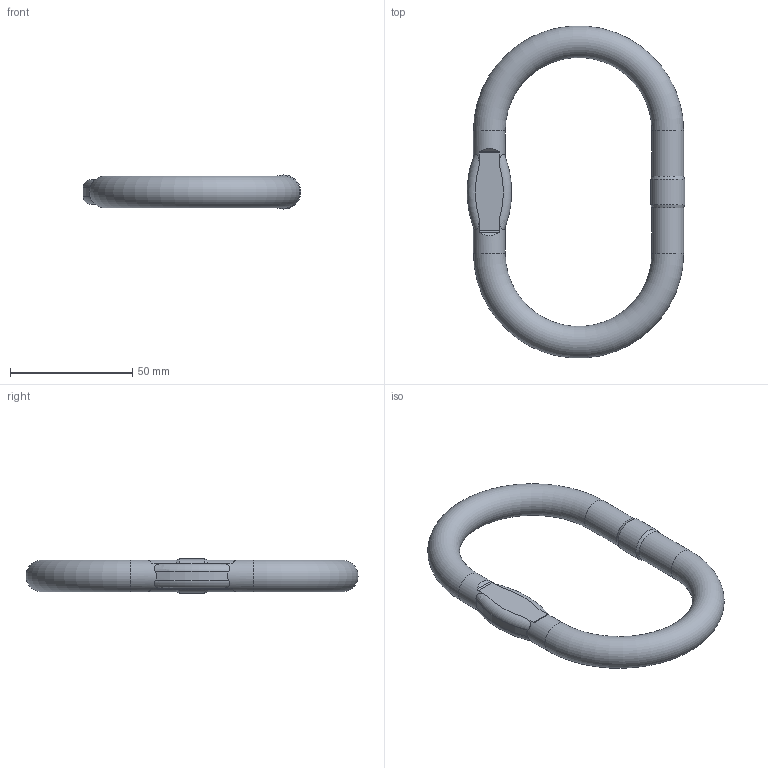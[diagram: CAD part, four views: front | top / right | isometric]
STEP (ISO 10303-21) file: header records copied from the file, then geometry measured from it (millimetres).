
FILE_DESCRIPTION(/* description */ (''),/* implementation_level */ '2;1');
FILE_NAME(/* name */ 'AWP_13.stp',/* time_stamp */ '2018-02-23T10:26:51+01:00',/* author */ (''),/* organization */ (''),/* preprocessor_version */ 'ST-DEVELOPER v16',/* originating_system */ 'SIEMENS PLM Software NX 11.0',/* authorisation */ '');
FILE_SCHEMA (('AUTOMOTIVE_DESIGN { 1 0 10303 214 3 1 1 1 }'));
Length unit declared in the file: millimetre
Products named in the file (1): kch1114C08Dlj84
Bounding box: 89.05 x 135.86 x 13.97 mm (x, y, z)
Volume: 44535.2 mm3; surface area: 13785.3 mm2
Topology: 1 solids, 1 shells, 141 faces, 381 edges, 252 vertices
Faces by surface type: plane 73, extrusion 44, cylinder 16, torus 6, cone 2
Full cylindrical faces by diameter (mm): 13 x4, 13.975 x1
Entity records: 4966 total; most frequent: CARTESIAN_POINT 1692, ORIENTED_EDGE 744, DIRECTION 490, EDGE_CURVE 372, VERTEX_POINT 252, VECTOR 226, B_SPLINE_CURVE_WITH_KNOTS 200, LINE 182
